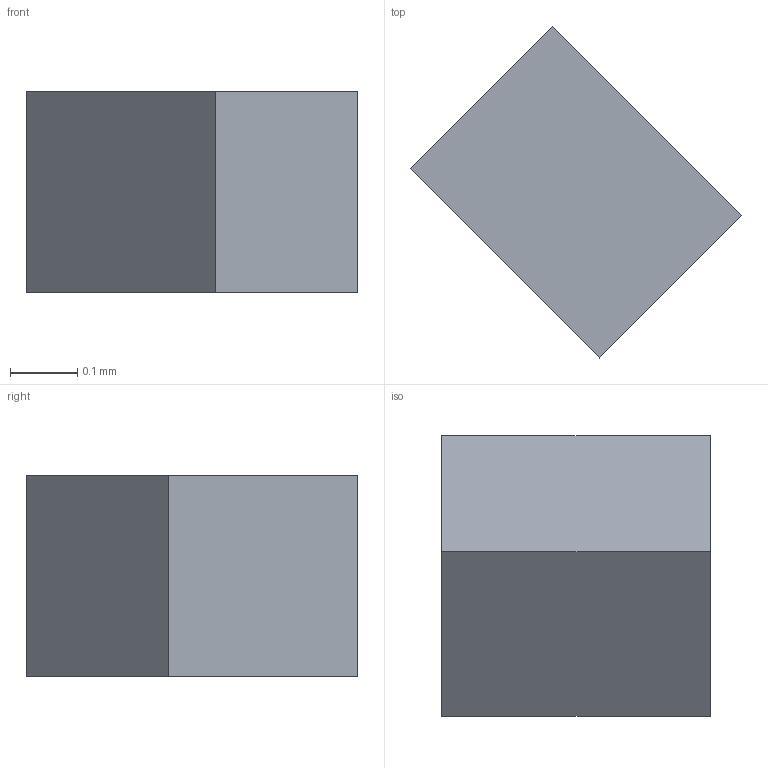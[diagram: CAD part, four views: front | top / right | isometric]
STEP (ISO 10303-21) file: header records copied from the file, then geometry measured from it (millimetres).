
FILE_DESCRIPTION(/* description */ ('STEP AP242 Edition 2','CAx-IF Rec.Pracs.---Representation and Presentation of Product Manufacturing Information (PMI)---4.0---2014-10-13','CAx-IF Rec.Pracs.---3D Tessellated Geometry---0.4---2014-09-14','2;1','CAx-IF Rec.Pracs.---User Defined Attributes---1.5---2016-08-15'),/* implementation_level */ '2;1');
FILE_NAME(/* name */ 'HIRO_Assembly - SMD Capacitor, Configurable, Raspberry Pi Pico-R3_C6 (2)',/* time_stamp */ '2026-11-04T05:23:29Z',/* author */ (''),/* organization */ (''),/* preprocessor_version */ 'ST-DEVELOPER v20',/* originating_system */ 'ONSHAPE BY PTC INC, 1.223',/* authorisation */ ' ');
FILE_SCHEMA (('AP242_MANAGED_MODEL_BASED_3D_ENGINEERING_MIM_LF { 1 0 10303 442 3 1 4 }'));
Length unit declared in the file: metre
Products named in the file (1): SMD Capacitor, Configurable, Raspberry Pi Pico-R3_C6
Bounding box: 0.49 x 0.49 x 0.3 mm (x, y, z)
Volume: 0 mm3; surface area: 0.7 mm2
Topology: 1 solids, 1 shells, 6 faces, 12 edges, 8 vertices
Faces by surface type: plane 6
Entity records: 221 total; most frequent: CARTESIAN_POINT 27, DIRECTION 26, ORIENTED_EDGE 24, EDGE_CURVE 12, LINE 12, VECTOR 12, VERTEX_POINT 8, PRESENTATION_STYLE_ASSIGNMENT 7
